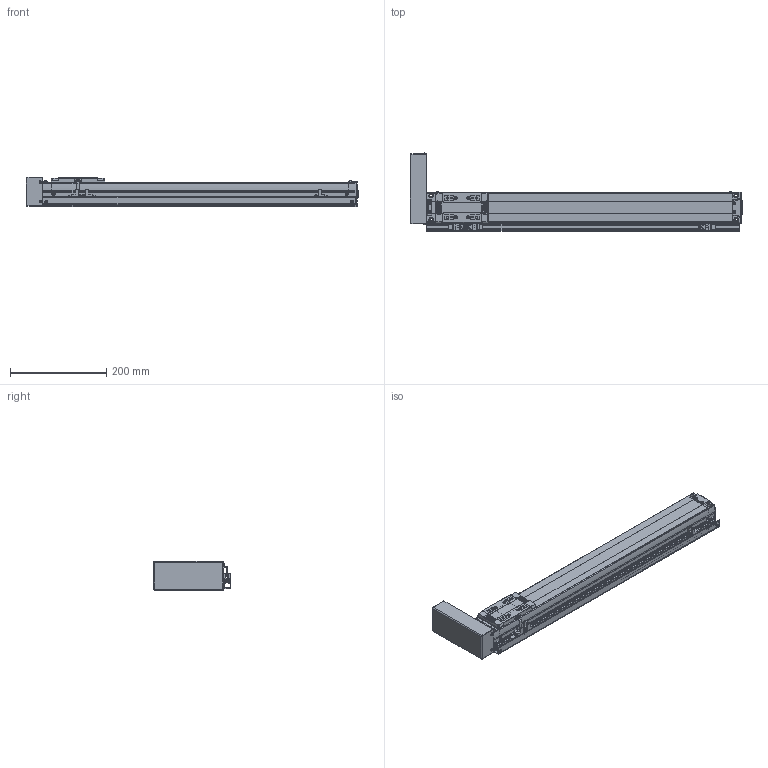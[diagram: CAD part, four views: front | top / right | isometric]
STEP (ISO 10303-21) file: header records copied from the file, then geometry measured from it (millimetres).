
FILE_DESCRIPTION(('STEP AP214'),'1');
FILE_NAME('Z:/Web/3D/SAN65/STP/SAN65ㅁㅁ-500PL+3SR.stp','2012-06-14T06:27:56',(' '),(' '),'Spatial InterOp 3D',' ',' ');
FILE_SCHEMA(('automotive_design'));
Length unit declared in the file: metre
Products named in the file (57): SAN65__-500; BODY-SAN65; REAR-SAN65; RRCV-SAN65; 스크루 : Round - M3.0 x 6.0; FRONT-SAN65; SHAFT-SAN65; RN8 x 0.75; SSFX-SAN65; SLIDE-SAN65; SLCV-SAN65; 스크루 : Countersunk - M3.0 x 6.0; ____203; PL; BTCV-SAN65; BHCS M3 X 6L; 3SR; SRL-16x17-450L; - OT; EE-SX674; SBK-SX674-352; HOME; + OT; DOG; SDG-SAN65; 스크루 : Round - M3.0 x 5.0
Assembly tree (56 placements, depth 4):
  ____203
    SAN65__-500
      BODY-SAN65
      REAR-SAN65
        REAR-SAN65
        RRCV-SAN65
        스크루 : Round - M3.0 x 6.0
        스크루 : Round - M3.0 x 6.0
        스크루 : Round - M3.0 x 6.0
        스크루 : Round - M3.0 x 6.0
        스크루 : Round - M3.0 x 6.0
        스크루 : Round - M3.0 x 6.0
      FRONT-SAN65
        FRONT-SAN65
        SHAFT-SAN65
        RN8 x 0.75
        SSFX-SAN65
        스크루 : Round - M3.0 x 6.0
        스크루 : Round - M3.0 x 6.0
        스크루 : Round - M3.0 x 6.0
        스크루 : Round - M3.0 x 6.0
      SLIDE-SAN65
        SLIDE-SAN65
        SLCV-SAN65
        스크루 : Countersunk - M3.0 x 6.0
        스크루 : Countersunk - M3.0 x 6.0
        스크루 : Countersunk - M3.0 x 6.0
        스크루 : Countersunk - M3.0 x 6.0
    PL
      BTCV-SAN65
      BHCS M3 X 6L
      BHCS M3 X 6L
      BHCS M3 X 6L
      BHCS M3 X 6L
    3SR
      SRL-16x17-450L
      스크루 : Round - M3.0 x 6.0
      스크루 : Round - M3.0 x 6.0
      - OT
        EE-SX674
        SBK-SX674-352
        스크루 : Round - M3.0 x 6.0
        스크루 : Round - M3.0 x 6.0
      HOME
        EE-SX674
        SBK-SX674-352
        스크루 : Round - M3.0 x 6.0
        스크루 : Round - M3.0 x 6.0
      + OT
        EE-SX674
        SBK-SX674-352
        스크루 : Round - M3.0 x 6.0
        스크루 : Round - M3.0 x 6.0
      DOG
        SDG-SAN65
        스크루 : Round - M3.0 x 5.0
        스크루 : Round - M3.0 x 5.0
Bounding box: 690.15 x 162.06 x 61 mm (x, y, z)
Volume: 2447936.3 mm3; surface area: 351985.9 mm2
Topology: 46 solids, 46 shells, 1969 faces, 5021 edges, 3270 vertices
Faces by surface type: plane 1293, cylinder 491, cone 101, sphere 36, bspline 30, torus 15, extrusion 3
Full cylindrical faces by diameter (mm): 0.571 x2, 0.706 x1, 1.727 x2, 2.132 x1, 2.2 x4, 2.5 x15, 2.528 x4, 3 x6, 3.121 x2, 3.3 x4, 3.4 x8, 3.5 x14, 4.2 x36, 4.849 x4, 5 x2, 5.5 x4, 5.987 x2, 6 x6, 6.35 x1, 6.5 x2, 7 x1, 8 x4, 9.5 x4, 13 x1, 15 x1, 19 x1, 26 x1, 38.1 x1
Entity records: 79237 total; most frequent: CARTESIAN_POINT 15067, DIRECTION 9849, ORIENTED_EDGE 9328, EDGE_CURVE 4664, AXIS2_PLACEMENT_3D 3284, VECTOR 3281, LINE 3278, VERTEX_POINT 3210
